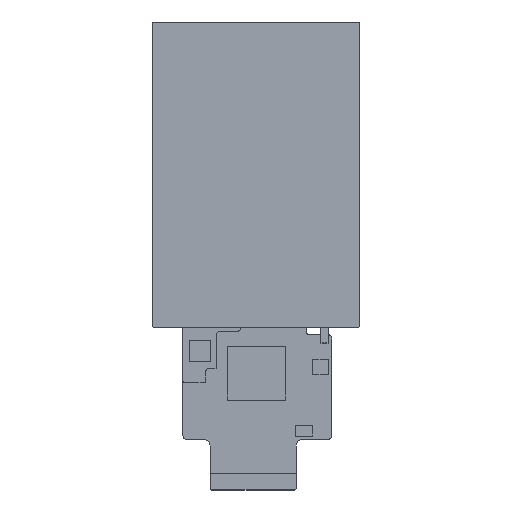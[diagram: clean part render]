
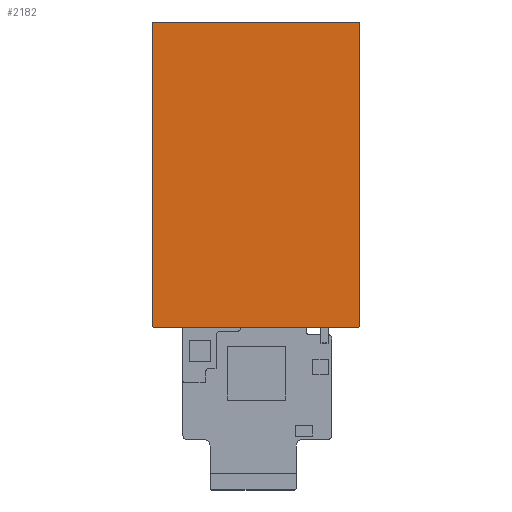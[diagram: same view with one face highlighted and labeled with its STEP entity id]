
A CAD part, top view. The second image highlights one B-rep face of the part: STEP entity #2182.
In plain terms, the highlighted planar face has unit normal (0, 0, 1).
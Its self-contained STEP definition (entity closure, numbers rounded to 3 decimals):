
#101=DIRECTION('',(-1.,0.,0.));
#102=VECTOR('',#101,60.3);
#103=CARTESIAN_POINT('',(30.15,42.89,0.7));
#104=LINE('',#103,#102);
#113=DIRECTION('',(0.,1.,0.));
#114=VECTOR('',#113,89.47);
#115=CARTESIAN_POINT('',(30.65,-47.08,0.7));
#116=LINE('',#115,#114);
#125=DIRECTION('',(1.,0.,0.));
#126=VECTOR('',#125,60.3);
#127=CARTESIAN_POINT('',(-30.15,-47.58,0.7));
#128=LINE('',#127,#126);
#137=DIRECTION('',(0.,-1.,0.));
#138=VECTOR('',#137,89.47);
#139=CARTESIAN_POINT('',(-30.65,42.39,0.7));
#140=LINE('',#139,#138);
#141=CARTESIAN_POINT('',(-30.15,42.39,0.7));
#142=DIRECTION('',(0.,0.,-1.));
#143=DIRECTION('',(-1.,0.,0.));
#144=AXIS2_PLACEMENT_3D('',#141,#142,#143);
#146=CARTESIAN_POINT('',(30.15,42.39,0.7));
#147=DIRECTION('',(0.,0.,-1.));
#148=DIRECTION('',(0.,1.,0.));
#149=AXIS2_PLACEMENT_3D('',#146,#147,#148);
#151=CARTESIAN_POINT('',(30.15,-47.08,0.7));
#152=DIRECTION('',(0.,0.,-1.));
#153=DIRECTION('',(1.,0.,0.));
#154=AXIS2_PLACEMENT_3D('',#151,#152,#153);
#156=CARTESIAN_POINT('',(-30.15,-47.08,0.7));
#157=DIRECTION('',(0.,0.,-1.));
#158=DIRECTION('',(0.,-1.,0.));
#159=AXIS2_PLACEMENT_3D('',#156,#157,#158);
#1566=CARTESIAN_POINT('',(-30.15,42.89,0.7));
#1567=VERTEX_POINT('',#1566);
#1568=CARTESIAN_POINT('',(-30.65,42.39,0.7));
#1569=VERTEX_POINT('',#1568);
#1570=CARTESIAN_POINT('',(30.15,42.89,0.7));
#1571=VERTEX_POINT('',#1570);
#1572=CARTESIAN_POINT('',(30.65,42.39,0.7));
#1573=VERTEX_POINT('',#1572);
#1574=CARTESIAN_POINT('',(30.65,-47.08,0.7));
#1575=VERTEX_POINT('',#1574);
#1576=CARTESIAN_POINT('',(30.15,-47.58,0.7));
#1577=VERTEX_POINT('',#1576);
#1578=CARTESIAN_POINT('',(-30.15,-47.58,0.7));
#1579=VERTEX_POINT('',#1578);
#1580=CARTESIAN_POINT('',(-30.65,-47.08,0.7));
#1581=VERTEX_POINT('',#1580);
#2167=CARTESIAN_POINT('',(0.,0.,0.7));
#2168=DIRECTION('',(0.,0.,1.));
#2169=DIRECTION('',(1.,0.,0.));
#2170=AXIS2_PLACEMENT_3D('',#2167,#2168,#2169);
#2171=PLANE('',#2170);
#2172=ORIENTED_EDGE('',*,*,#2063,.T.);
#2173=ORIENTED_EDGE('',*,*,#2078,.F.);
#2174=ORIENTED_EDGE('',*,*,#2092,.T.);
#2175=ORIENTED_EDGE('',*,*,#2106,.F.);
#2176=ORIENTED_EDGE('',*,*,#2120,.T.);
#2177=ORIENTED_EDGE('',*,*,#2134,.F.);
#2178=ORIENTED_EDGE('',*,*,#2148,.T.);
#2179=ORIENTED_EDGE('',*,*,#2161,.F.);
#2180=EDGE_LOOP('',(#2172,#2173,#2174,#2175,#2176,#2177,#2178,#2179));
#2181=FACE_OUTER_BOUND('',#2180,.F.);
#145=CIRCLE('',#144,0.5);
#150=CIRCLE('',#149,0.5);
#155=CIRCLE('',#154,0.5);
#160=CIRCLE('',#159,0.5);
#2063=EDGE_CURVE('',#1569,#1567,#145,.T.);
#2078=EDGE_CURVE('',#1571,#1567,#104,.T.);
#2092=EDGE_CURVE('',#1571,#1573,#150,.T.);
#2106=EDGE_CURVE('',#1575,#1573,#116,.T.);
#2120=EDGE_CURVE('',#1575,#1577,#155,.T.);
#2134=EDGE_CURVE('',#1579,#1577,#128,.T.);
#2148=EDGE_CURVE('',#1579,#1581,#160,.T.);
#2161=EDGE_CURVE('',#1569,#1581,#140,.T.);
#2182=ADVANCED_FACE('',(#2181),#2171,.T.);
